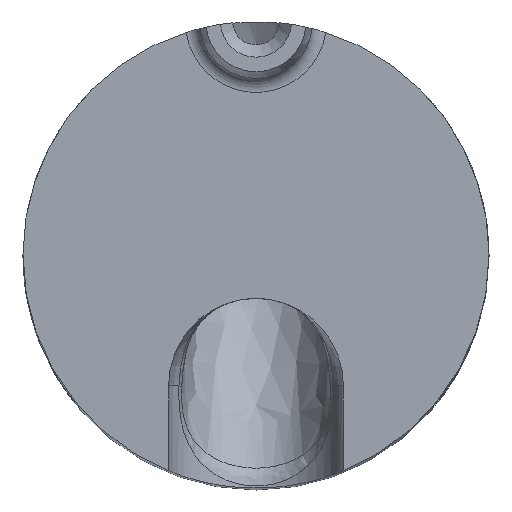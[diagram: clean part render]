
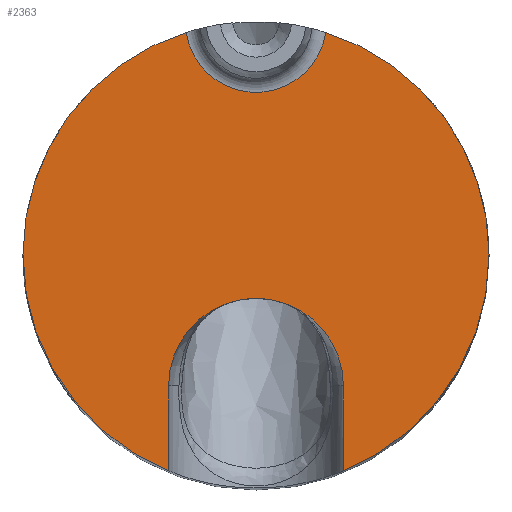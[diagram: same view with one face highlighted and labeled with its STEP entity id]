
A CAD part, top view. The second image highlights one B-rep face of the part: STEP entity #2363.
In plain terms, the highlighted planar face has unit normal (0, 0, 1).
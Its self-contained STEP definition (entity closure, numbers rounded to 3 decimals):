
#49=CARTESIAN_POINT('',(-1.199,-0.184,0.));
#188=CARTESIAN_POINT('',(1.5,-7.708,0.));
#205=CARTESIAN_POINT('',(-1.5,-7.708,0.));
#207=DIRECTION('',(0.,1.,0.));
#208=VECTOR('',#207,1.458);
#209=CARTESIAN_POINT('',(-1.5,-7.708,0.));
#210=LINE('',#209,#208);
#251=DIRECTION('',(0.,-1.,0.));
#252=VECTOR('',#251,1.458);
#253=CARTESIAN_POINT('',(1.5,-6.25,0.));
#254=LINE('',#253,#252);
#319=CARTESIAN_POINT('',(0.,-4.,0.));
#320=DIRECTION('',(0.,0.,-1.));
#321=DIRECTION('',(-0.375,-0.927,0.));
#322=AXIS2_PLACEMENT_3D('',#319,#320,#321);
#324=CARTESIAN_POINT('',(0.,-4.,0.));
#325=DIRECTION('',(0.,0.,-1.));
#326=DIRECTION('',(-1.,0.,0.));
#327=AXIS2_PLACEMENT_3D('',#324,#325,#326);
#329=CARTESIAN_POINT('',(0.,0.,0.));
#330=DIRECTION('',(0.,0.,1.));
#331=DIRECTION('',(-0.988,-0.152,0.));
#332=AXIS2_PLACEMENT_3D('',#329,#330,#331);
#334=CARTESIAN_POINT('',(0.,-4.,0.));
#335=DIRECTION('',(0.,0.,-1.));
#336=DIRECTION('',(0.3,0.954,0.));
#337=AXIS2_PLACEMENT_3D('',#334,#335,#336);
#339=CARTESIAN_POINT('',(0.,-4.,0.));
#340=DIRECTION('',(0.,0.,-1.));
#341=DIRECTION('',(1.,0.,0.));
#342=AXIS2_PLACEMENT_3D('',#339,#340,#341);
#344=CARTESIAN_POINT('',(0.,-6.25,0.));
#345=DIRECTION('',(0.,0.,1.));
#346=DIRECTION('',(1.,0.,0.));
#347=AXIS2_PLACEMENT_3D('',#344,#345,#346);
#349=CARTESIAN_POINT('',(0.,-6.25,0.));
#350=DIRECTION('',(0.,0.,1.));
#351=DIRECTION('',(0.,1.,0.));
#352=AXIS2_PLACEMENT_3D('',#349,#350,#351);
#1377=VERTEX_POINT('',#49);
#1378=CARTESIAN_POINT('',(-4.,-4.,0.));
#1379=VERTEX_POINT('',#1378);
#1408=CARTESIAN_POINT('',(4.,-4.,0.));
#1409=VERTEX_POINT('',#1408);
#1410=CARTESIAN_POINT('',(1.199,-0.184,0.));
#1411=VERTEX_POINT('',#1410);
#1422=VERTEX_POINT('',#188);
#1423=VERTEX_POINT('',#205);
#1424=CARTESIAN_POINT('',(-1.5,-6.25,0.));
#1425=VERTEX_POINT('',#1424);
#1426=CARTESIAN_POINT('',(1.5,-6.25,0.));
#1427=VERTEX_POINT('',#1426);
#1447=CARTESIAN_POINT('',(0.,-4.75,0.));
#1448=VERTEX_POINT('',#1447);
#2344=CARTESIAN_POINT('',(0.,0.,0.));
#2345=DIRECTION('',(0.,0.,-1.));
#2346=DIRECTION('',(1.,0.,0.));
#2347=AXIS2_PLACEMENT_3D('',#2344,#2345,#2346);
#2348=PLANE('',#2347);
#2349=ORIENTED_EDGE('',*,*,#2339,.T.);
#2350=ORIENTED_EDGE('',*,*,#1680,.T.);
#2352=ORIENTED_EDGE('',*,*,#2351,.T.);
#2353=ORIENTED_EDGE('',*,*,#1724,.T.);
#2354=ORIENTED_EDGE('',*,*,#2299,.T.);
#2355=ORIENTED_EDGE('',*,*,#2288,.F.);
#2357=ORIENTED_EDGE('',*,*,#2356,.T.);
#2359=ORIENTED_EDGE('',*,*,#2358,.T.);
#2360=ORIENTED_EDGE('',*,*,#2281,.F.);
#2361=EDGE_LOOP('',(#2349,#2350,#2352,#2353,#2354,#2355,#2357,#2359,#2360));
#2362=FACE_OUTER_BOUND('',#2361,.F.);
#2363=ADVANCED_FACE('',(#2362),#2348,.F.);
#323=CIRCLE('',#322,4.);
#328=CIRCLE('',#327,4.);
#333=CIRCLE('',#332,1.213);
#338=CIRCLE('',#337,4.);
#343=CIRCLE('',#342,4.);
#348=CIRCLE('',#347,1.5);
#353=CIRCLE('',#352,1.5);
#1680=EDGE_CURVE('',#1379,#1377,#328,.T.);
#1724=EDGE_CURVE('',#1411,#1409,#338,.T.);
#2281=EDGE_CURVE('',#1423,#1425,#210,.T.);
#2288=EDGE_CURVE('',#1427,#1422,#254,.T.);
#2299=EDGE_CURVE('',#1409,#1422,#343,.T.);
#2339=EDGE_CURVE('',#1423,#1379,#323,.T.);
#2351=EDGE_CURVE('',#1377,#1411,#333,.T.);
#2356=EDGE_CURVE('',#1427,#1448,#348,.T.);
#2358=EDGE_CURVE('',#1448,#1425,#353,.T.);
